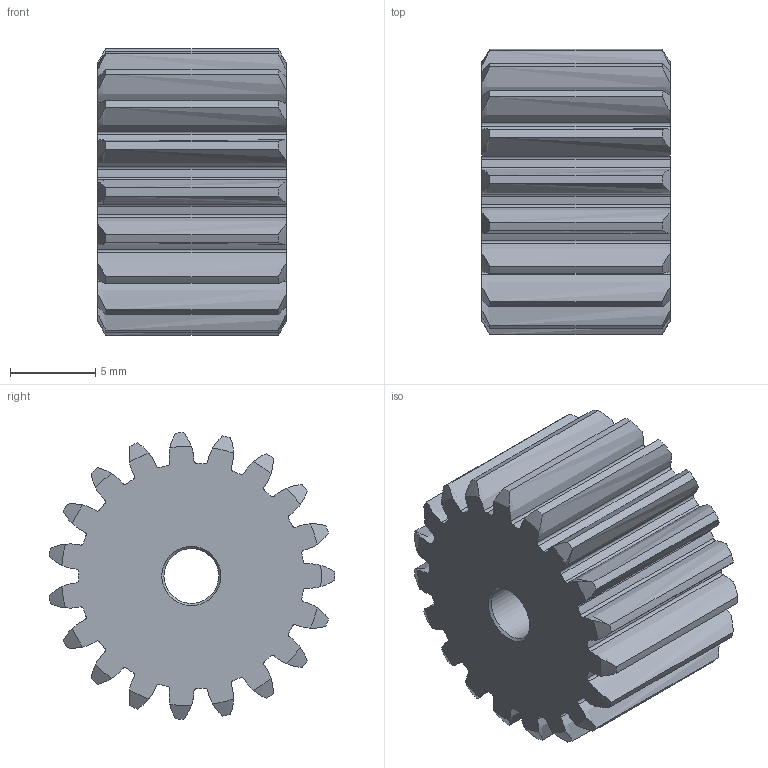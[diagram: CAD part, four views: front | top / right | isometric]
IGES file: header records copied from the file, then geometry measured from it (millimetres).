
Global section: file name: No Iges File Name specified; native system: AutoDesk Inventor R6.0; preprocessor: AutoDesk Inventor Iges Exporter R6.0; author: No Author specified; organization: No Organization specified; date: 20080105.202210; units: inch
Bounding box: 11 x 16.72 x 16.78 mm (x, y, z)
Surface area: 1472.2 mm2 (no closed solid volume)
Topology: 0 solids, 0 shells, 157 faces, 923 edges, 920 vertices
Faces by surface type: revolution 155, plane 2
